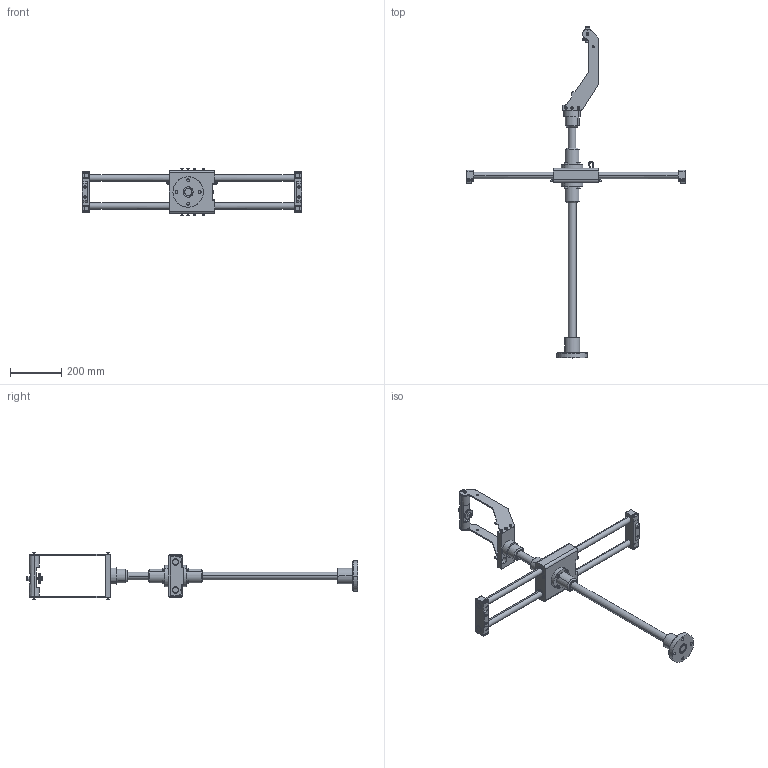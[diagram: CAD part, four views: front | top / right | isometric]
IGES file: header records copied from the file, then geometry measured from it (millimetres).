
Start section:  PTC IGES file: 6158116610_dim.igs
Global section: file name: 6158116610_dim.igs; native system: Creo Parametric by PTC Inc.; preprocessor: 2022162; author: S00000450; organization: Unknown; date: 20230213.094715; units: millimetre
Bounding box: 860 x 1301.5 x 182 mm (x, y, z)
Surface area: 557956.3 mm2 (no closed solid volume)
Topology: 0 solids, 0 shells, 1086 faces, 5266 edges, 5204 vertices
Faces by surface type: bspline 544, revolution 542
